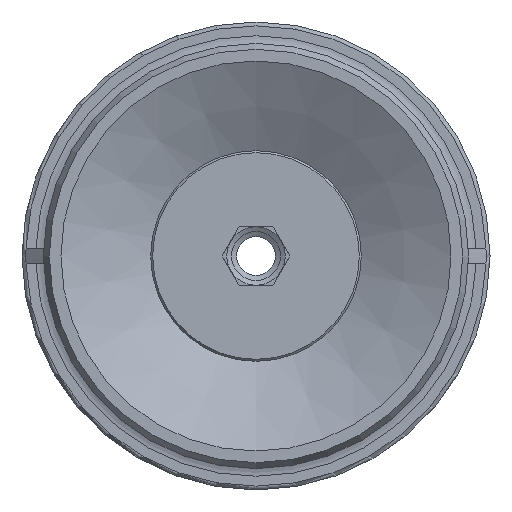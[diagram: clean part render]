
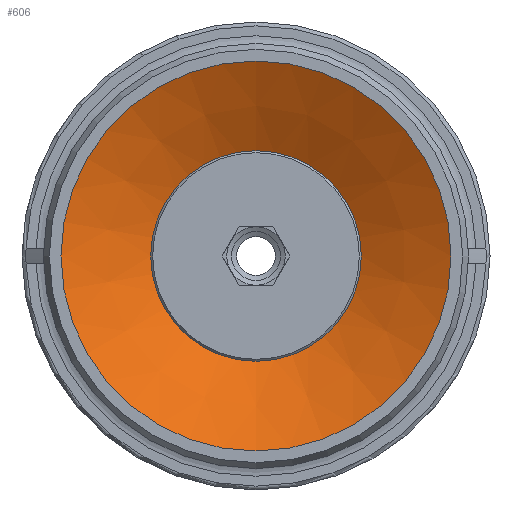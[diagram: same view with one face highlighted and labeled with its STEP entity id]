
A CAD part, front view. The second image highlights one B-rep face of the part: STEP entity #606.
In plain terms, the highlighted conical face has half-angle 61.631 degrees and reference radius 5.4 mm.
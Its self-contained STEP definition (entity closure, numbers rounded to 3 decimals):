
#606=ADVANCED_FACE('',(#913,#914),#915,.F.);
#913=FACE_BOUND('',#1275,.T.);
#914=FACE_OUTER_BOUND('',#1276,.T.);
#915=CONICAL_SURFACE('',#1277,5.4,1.076);
#1275=EDGE_LOOP('',(#2010));
#1276=EDGE_LOOP('',(#2011));
#1277=AXIS2_PLACEMENT_3D('',#2012,#2013,#2014);
#2010=ORIENTED_EDGE('',*,*,#2404,.F.);
#2011=ORIENTED_EDGE('',*,*,#2417,.T.);
#2012=CARTESIAN_POINT('',(0.0,2.484,0.0));
#2013=DIRECTION('',(-0.0,-1.0,0.));
#2014=DIRECTION('',(0.0,0.,-1.0));
#2404=EDGE_CURVE('',#2751,#2751,#2752,.T.);
#2417=EDGE_CURVE('',#2773,#2773,#2774,.T.);
#2751=VERTEX_POINT('',#3325);
#2752=CIRCLE('',#3326,5.4);
#2773=VERTEX_POINT('',#3352);
#2774=CIRCLE('',#3353,10.0);
#3325=CARTESIAN_POINT('',(0.0,2.484,-5.4));
#3326=AXIS2_PLACEMENT_3D('',#3758,#3759,#3760);
#3352=CARTESIAN_POINT('',(0.0,0.,-10.0));
#3353=AXIS2_PLACEMENT_3D('',#3787,#3788,#3789);
#3758=CARTESIAN_POINT('',(0.0,2.484,0.0));
#3759=DIRECTION('',(0.0,-1.0,0.));
#3760=DIRECTION('',(0.0,0.,-1.0));
#3787=CARTESIAN_POINT('',(0.0,0.0,0.0));
#3788=DIRECTION('',(0.0,-1.0,0.));
#3789=DIRECTION('',(0.0,0.,-1.0));
